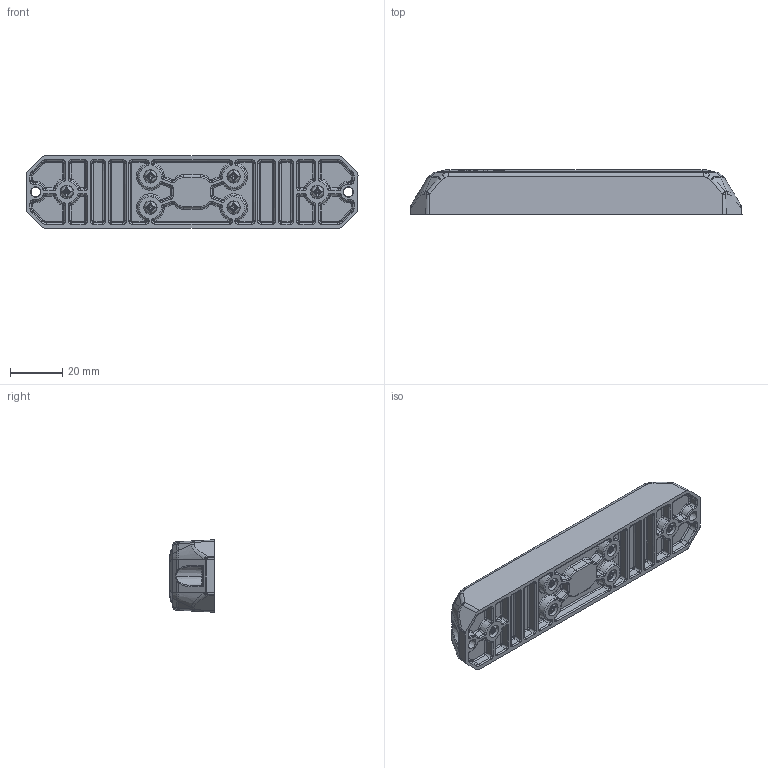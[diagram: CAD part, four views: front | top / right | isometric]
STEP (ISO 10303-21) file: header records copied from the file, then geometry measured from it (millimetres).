
FILE_DESCRIPTION(('CATIA V5 STEP Exchange','CAx-IF Rec.Pracs.--- Model Styling and Organization---1.5--- 2016-08-15','CAx-IF Rec.Pracs.---Supplemental Geometry---1.0---2011-11-01','CAx-IF Rec.Pracs.--- Composite Materials ---1.1---2010-07-15'),'2;1');
FILE_NAME('E:\tmp\ddx\2011221\HELLA_3D_data_BST-V_6-LED_fix_012-160-9.stp','2022-01-18T07:45:11+00:00',('none'),('none'),'CATIA Version 5-6 Release 2020 SP3 HF9','CATIA V5 STEP AP214 Edition 3 v2','none');
FILE_SCHEMA(('AUTOMOTIVE_DESIGN { 1 0 10303 214 3 1 1 1 }'));
Products named in the file (1): 10002479980_D10_001
Bounding box: 127.45 x 17.26 x 27.82 mm (x, y, z)
Volume: 46527.2 mm3; surface area: 16540.6 mm2
Topology: 1 solids, 2 shells, 1670 faces, 4156 edges, 2526 vertices
Faces by surface type: plane 674, cylinder 390, bspline 270, cone 184, torus 112, sphere 40
Entity records: 60997 total; most frequent: CARTESIAN_POINT 25420, ORIENTED_EDGE 8264, DIRECTION 5356, EDGE_CURVE 4132, VERTEX_POINT 2526, VECTOR 2070, LINE 2070, AXIS2_PLACEMENT_3D 1891
